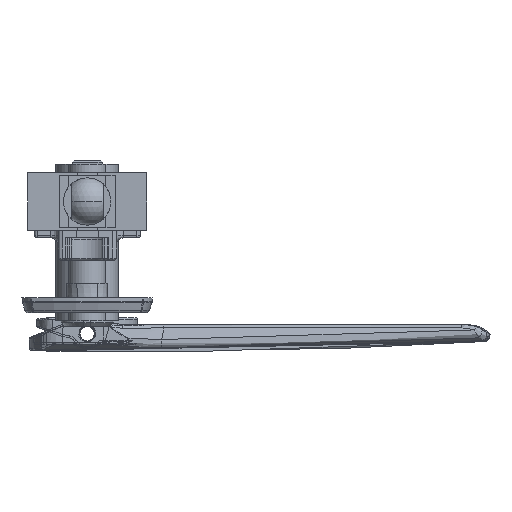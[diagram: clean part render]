
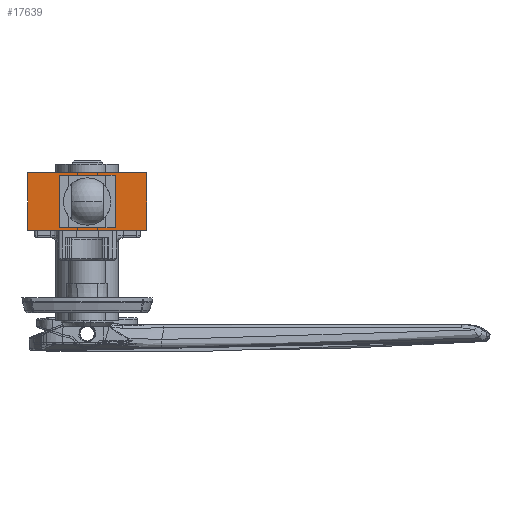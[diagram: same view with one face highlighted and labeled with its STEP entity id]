
A CAD part, front view. The second image highlights one B-rep face of the part: STEP entity #17639.
In plain terms, the highlighted planar face has unit normal (0, -1, 0).
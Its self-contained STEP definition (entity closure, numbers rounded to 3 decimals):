
#178 = CARTESIAN_POINT ( 'NONE',  ( 16., -199.25, 7.75 ) ) ;
#405 = VERTEX_POINT ( 'NONE', #18580 ) ;
#873 = LINE ( 'NONE', #29741, #3668 ) ;
#977 = CARTESIAN_POINT ( 'NONE',  ( -16., -199.25, 7.75 ) ) ;
#978 = VERTEX_POINT ( 'NONE', #9347 ) ;
#2219 = VECTOR ( 'NONE', #10751, 1000. ) ;
#3029 = VERTEX_POINT ( 'NONE', #20560 ) ;
#3633 = DIRECTION ( 'NONE',  ( 0., 0., -1. ) ) ;
#3668 = VECTOR ( 'NONE', #13949, 1000. ) ;
#4793 = VECTOR ( 'NONE', #3633, 1000. ) ;
#5806 = AXIS2_PLACEMENT_3D ( 'NONE', #11790, #9080, #6191 ) ;
#6191 = DIRECTION ( 'NONE',  ( 0., 0., 1. ) ) ;
#6246 = DIRECTION ( 'NONE',  ( -1., 0., 0. ) ) ;
#6586 = CARTESIAN_POINT ( 'NONE',  ( 7., -199.25, 6.25 ) ) ;
#7003 = EDGE_LOOP ( 'NONE', ( #12409, #9684, #32148, #12272 ) ) ;
#7138 = VERTEX_POINT ( 'NONE', #977 ) ;
#7409 = EDGE_LOOP ( 'NONE', ( #33522, #17963, #22987, #25931 ) ) ;
#8052 = LINE ( 'NONE', #15846, #2219 ) ;
#8837 = EDGE_CURVE ( 'NONE', #3029, #978, #8052, .T. ) ;
#9080 = DIRECTION ( 'NONE',  ( 0., 1., 0. ) ) ;
#9347 = CARTESIAN_POINT ( 'NONE',  ( 7., -199.25, 6.25 ) ) ;
#9684 = ORIENTED_EDGE ( 'NONE', *, *, #29245, .F. ) ;
#10515 = CARTESIAN_POINT ( 'NONE',  ( -7., -199.25, 6.25 ) ) ;
#10751 = DIRECTION ( 'NONE',  ( 0., 0., 1. ) ) ;
#10774 = VERTEX_POINT ( 'NONE', #23640 ) ;
#11790 = CARTESIAN_POINT ( 'NONE',  ( -16., -199.25, 7.75 ) ) ;
#12272 = ORIENTED_EDGE ( 'NONE', *, *, #24533, .T. ) ;
#12409 = ORIENTED_EDGE ( 'NONE', *, *, #27428, .T. ) ;
#13503 = VECTOR ( 'NONE', #20833, 1000. ) ;
#13949 = DIRECTION ( 'NONE',  ( 1., 0., 0. ) ) ;
#14903 = LINE ( 'NONE', #24753, #24532 ) ;
#15111 = LINE ( 'NONE', #178, #13503 ) ;
#15248 = CARTESIAN_POINT ( 'NONE',  ( -16., -199.25, 7.75 ) ) ;
#15778 = VECTOR ( 'NONE', #25253, 1000. ) ;
#15846 = CARTESIAN_POINT ( 'NONE',  ( 7., -199.25, 6.25 ) ) ;
#16524 = FACE_BOUND ( 'NONE', #7409, .T. ) ;
#17290 = VECTOR ( 'NONE', #31655, 1000. ) ;
#17639 = ADVANCED_FACE ( 'NONE', ( #16524, #21938 ), #32327, .F. ) ;
#17963 = ORIENTED_EDGE ( 'NONE', *, *, #22083, .F. ) ;
#18580 = CARTESIAN_POINT ( 'NONE',  ( -7., -199.25, -6.25 ) ) ;
#18671 = EDGE_CURVE ( 'NONE', #19077, #405, #24345, .T. ) ;
#18683 = CARTESIAN_POINT ( 'NONE',  ( -16., -199.25, -7.75 ) ) ;
#19077 = VERTEX_POINT ( 'NONE', #10515 ) ;
#19797 = EDGE_CURVE ( 'NONE', #405, #3029, #873, .T. ) ;
#20019 = VECTOR ( 'NONE', #6246, 1000. ) ;
#20560 = CARTESIAN_POINT ( 'NONE',  ( 7., -199.25, -6.25 ) ) ;
#20833 = DIRECTION ( 'NONE',  ( 0., 0., -1. ) ) ;
#21085 = LINE ( 'NONE', #21260, #17290 ) ;
#21260 = CARTESIAN_POINT ( 'NONE',  ( -16., -199.25, -7.75 ) ) ;
#21938 = FACE_OUTER_BOUND ( 'NONE', #7003, .T. ) ;
#22083 = EDGE_CURVE ( 'NONE', #978, #19077, #26756, .T. ) ;
#22987 = ORIENTED_EDGE ( 'NONE', *, *, #8837, .F. ) ;
#23640 = CARTESIAN_POINT ( 'NONE',  ( 16., -199.25, -7.75 ) ) ;
#24345 = LINE ( 'NONE', #26374, #4793 ) ;
#24532 = VECTOR ( 'NONE', #32750, 1000. ) ;
#24533 = EDGE_CURVE ( 'NONE', #7138, #26689, #33247, .T. ) ;
#24753 = CARTESIAN_POINT ( 'NONE',  ( -16., -199.25, 7.75 ) ) ;
#25253 = DIRECTION ( 'NONE',  ( 0., 0., -1. ) ) ;
#25931 = ORIENTED_EDGE ( 'NONE', *, *, #19797, .F. ) ;
#26374 = CARTESIAN_POINT ( 'NONE',  ( -7., -199.25, -6.25 ) ) ;
#26689 = VERTEX_POINT ( 'NONE', #18683 ) ;
#26756 = LINE ( 'NONE', #6586, #20019 ) ;
#27428 = EDGE_CURVE ( 'NONE', #26689, #10774, #21085, .T. ) ;
#27485 = CARTESIAN_POINT ( 'NONE',  ( 16., -199.25, 7.75 ) ) ;
#29245 = EDGE_CURVE ( 'NONE', #32691, #10774, #15111, .T. ) ;
#29741 = CARTESIAN_POINT ( 'NONE',  ( -7., -199.25, -6.25 ) ) ;
#31655 = DIRECTION ( 'NONE',  ( 1., 0., 0. ) ) ;
#32148 = ORIENTED_EDGE ( 'NONE', *, *, #32716, .F. ) ;
#32327 = PLANE ( 'NONE',  #5806 ) ;
#32691 = VERTEX_POINT ( 'NONE', #27485 ) ;
#32716 = EDGE_CURVE ( 'NONE', #7138, #32691, #14903, .T. ) ;
#32750 = DIRECTION ( 'NONE',  ( 1., 0., 0. ) ) ;
#33247 = LINE ( 'NONE', #15248, #15778 ) ;
#33522 = ORIENTED_EDGE ( 'NONE', *, *, #18671, .F. ) ;
